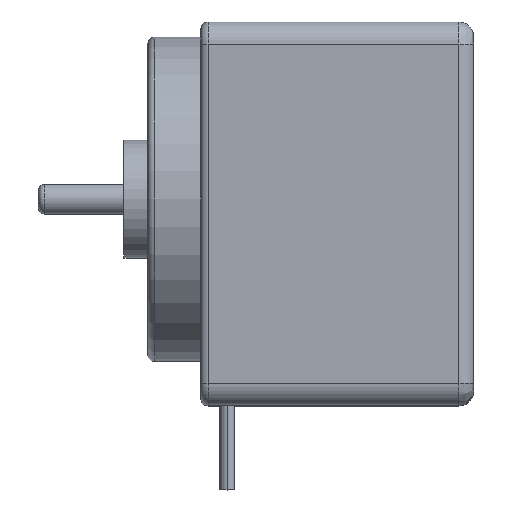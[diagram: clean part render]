
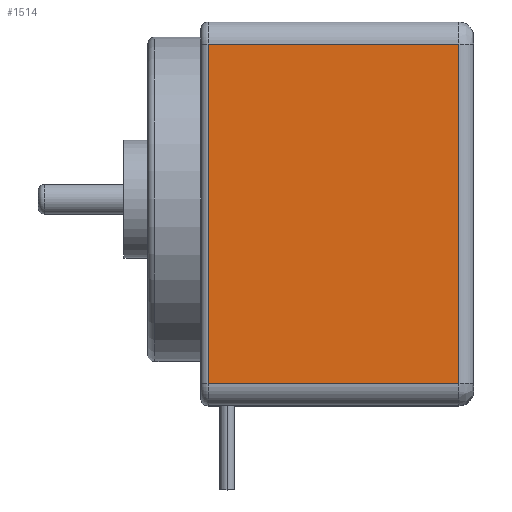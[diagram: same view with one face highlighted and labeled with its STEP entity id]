
A CAD part, top view. The second image highlights one B-rep face of the part: STEP entity #1514.
In plain terms, the highlighted planar face has unit normal (0, 0, 1).
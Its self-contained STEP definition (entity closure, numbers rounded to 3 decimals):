
#455=DIRECTION('',(0.,1.,0.));
#456=VECTOR('',#455,23.);
#457=CARTESIAN_POINT('',(0.5,-12.5,11.5));
#458=LINE('',#457,#456);
#459=DIRECTION('',(-1.,0.,0.));
#460=VECTOR('',#459,17.);
#461=CARTESIAN_POINT('',(17.5,10.5,11.5));
#462=LINE('',#461,#460);
#463=DIRECTION('',(0.,-1.,0.));
#464=VECTOR('',#463,23.);
#465=CARTESIAN_POINT('',(17.5,10.5,11.5));
#466=LINE('',#465,#464);
#467=DIRECTION('',(-1.,0.,0.));
#468=VECTOR('',#467,17.);
#469=CARTESIAN_POINT('',(17.5,-12.5,11.5));
#470=LINE('',#469,#468);
#891=CARTESIAN_POINT('',(0.5,-12.5,11.5));
#892=CARTESIAN_POINT('',(0.5,10.5,11.5));
#893=VERTEX_POINT('',#891);
#894=VERTEX_POINT('',#892);
#927=CARTESIAN_POINT('',(17.5,10.5,11.5));
#928=CARTESIAN_POINT('',(17.5,-12.5,11.5));
#929=VERTEX_POINT('',#927);
#930=VERTEX_POINT('',#928);
#1500=CARTESIAN_POINT('',(0.,12.,11.5));
#1501=DIRECTION('',(0.,0.,1.));
#1502=DIRECTION('',(0.,-1.,0.));
#1503=AXIS2_PLACEMENT_3D('',#1500,#1501,#1502);
#1504=PLANE('',#1503);
#1506=ORIENTED_EDGE('',*,*,#1505,.T.);
#1508=ORIENTED_EDGE('',*,*,#1507,.F.);
#1510=ORIENTED_EDGE('',*,*,#1509,.T.);
#1511=ORIENTED_EDGE('',*,*,#1492,.T.);
#1512=EDGE_LOOP('',(#1506,#1508,#1510,#1511));
#1513=FACE_OUTER_BOUND('',#1512,.F.);
#1514=ADVANCED_FACE('',(#1513),#1504,.T.);
#1492=EDGE_CURVE('',#930,#893,#470,.T.);
#1505=EDGE_CURVE('',#893,#894,#458,.T.);
#1507=EDGE_CURVE('',#929,#894,#462,.T.);
#1509=EDGE_CURVE('',#929,#930,#466,.T.);
